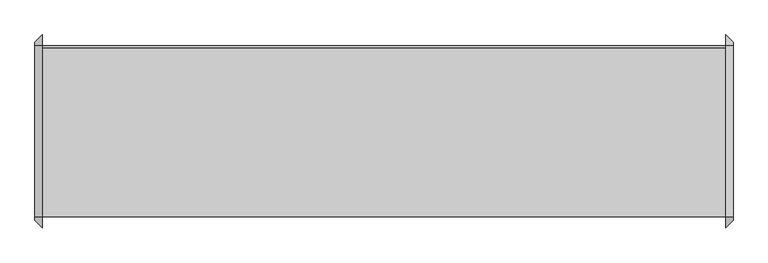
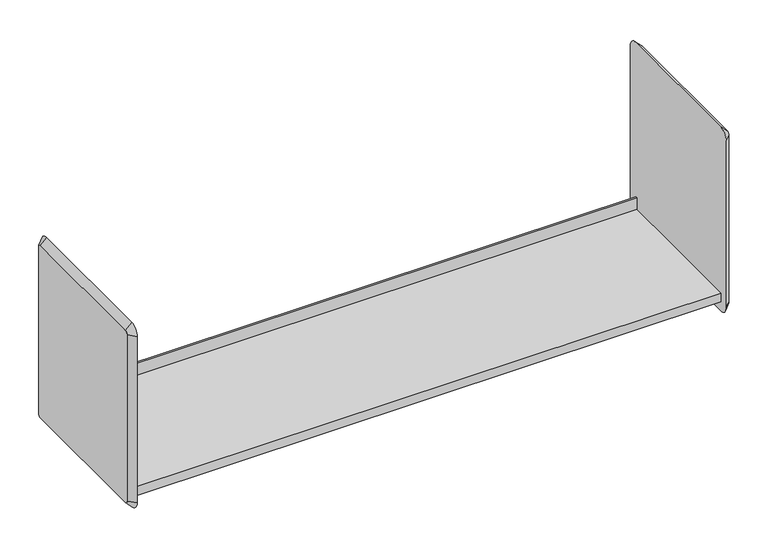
"""IFC4 building model written with IfcOpenShell, lengths in millimetres: furniture geometry, HermanMiller_CoStruc_B-StyleShelf : 15-1/2H x 13D x 48W."""

from ifc_helpers import new_model, si_unit, frame, origin, place, context, project, spatial, polyline, circle_curve, outline, extrude, source, transform, mapped, element, save
from ifc_brep_helpers import plane_surface, revolved_surface, advanced_brep


def furniture_8d228605(model_context):
    return source(origin(), model_context, "Body", "SolidModel", [
        extrude(outline(polyline([(-136.525, 1219.2), (158.75, 1219.2), (158.75, 1244.6), (161.925, 1244.6), (161.925, 1200.1152313), (-136.525, 1200.1152313), (-136.525, 1219.2)])), frame((-720.8420045, 0.0, 0.0), z_axis=(1.0, 0.0, 0.0), x_axis=(0.0, 1.0, 0.0)), (0.0, 0.0, 1.0), 1193.8),
        advanced_brep(
        [(472.9579955, -155.575, 1555.75), (472.9579955, -155.575, 1200.15), (485.6579955, -142.875, 1200.15), (485.6579955, -142.875, 1555.75), (485.6579955, 161.925, 1562.1), (485.6579955, -136.525, 1562.1), (485.6579955, -136.525, 1193.8), (485.6579955, 161.925, 1193.8), (485.6579955, 168.275, 1200.15), (485.6579955, 168.275, 1555.75), (472.9579955, -136.525, 1181.1), (472.9579955, 161.925, 1181.1), (472.9579955, 180.975, 1200.15), (472.9579955, 180.975, 1555.75), (472.9579955, 161.925, 1574.8), (472.9579955, -136.525, 1574.8)],
        [
            (0, 1),
            (1, 2),
            (2, 3),
            (3, 0),
            (4, 5),
            (5, 3, circle_curve(frame((485.6579955, -136.525, 1555.75), z_axis=(1.0, 0.0, 0.0), x_axis=(0.0, 0.0, 1.0)), 6.35)),
            (2, 6, circle_curve(frame((485.6579955, -136.525, 1200.15), z_axis=(1.0, 0.0, 0.0), x_axis=(0.0, -1.0, 0.0)), 6.35)),
            (6, 7),
            (7, 8, circle_curve(frame((485.6579955, 161.925, 1200.15), z_axis=(1.0, 0.0, 0.0), x_axis=(0.0, 0.0, -1.0)), 6.35)),
            (8, 9),
            (9, 4, circle_curve(frame((485.6579955, 161.925, 1555.75), z_axis=(1.0, 0.0, 0.0), x_axis=(0.0, 1.0, 0.0)), 6.35)),
            (1, 10, circle_curve(frame((472.9579955, -136.525, 1200.15), z_axis=(1.0, 0.0, 0.0), x_axis=(0.0, -1.0, 0.0)), 19.05)),
            (10, 6),
            (10, 11),
            (11, 7),
            (11, 12, circle_curve(frame((472.9579955, 161.925, 1200.15), z_axis=(1.0, 0.0, 0.0), x_axis=(0.0, 0.0, -1.0)), 19.05)),
            (12, 8),
            (12, 13),
            (13, 9),
            (14, 13, circle_curve(frame((472.9579955, 161.925, 1555.75), z_axis=(-1.0, 0.0, 0.0), x_axis=(0.0, 1.0, 0.0)), 19.05)),
            (0, 15, circle_curve(frame((472.9579955, -136.525, 1555.75), z_axis=(-1.0, 0.0, 0.0), x_axis=(0.0, 0.0, 1.0)), 19.05)),
            (15, 14),
            (15, 5),
            (4, 14),
        ],
        [
            plane_surface(frame((472.9579955, -155.575, 1377.95), z_axis=(0.7071067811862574, -0.7071067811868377, 0.0), x_axis=(0.0, 0.0, -1.0))),
            plane_surface(frame((485.6579955, 12.7, 1377.95), z_axis=(1.0, 0.0, 0.0), x_axis=(0.0, -1.0, 0.0))),
            revolved_surface(polyline([(485.6579955, -142.87499999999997, 1200.15), (472.9579955, -155.575, 1200.15)]), (492.0079955, -136.525, 1200.15), (-1.0, 0.0, 0.0)),
            plane_surface(frame((472.9579955, 12.7, 1181.1), z_axis=(0.7071067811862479, 0.0, -0.7071067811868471), x_axis=(0.0, 1.0, 0.0))),
            revolved_surface(polyline([(485.6579955, 161.925, 1193.8000000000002), (472.9579955, 161.925, 1181.1)]), (492.0079955, 161.925, 1200.15), (-1.0, 0.0, 0.0)),
            plane_surface(frame((472.9579955, 180.975, 1377.95), z_axis=(0.7071067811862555, 0.7071067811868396, 0.0), x_axis=(0.0, 0.0, 1.0))),
            plane_surface(frame((472.9579955, 12.7, 1377.95), z_axis=(-1.0, 0.0, 0.0), x_axis=(0.0, -1.0, 0.0))),
            plane_surface(frame((472.9579955, 12.7, 1574.8), z_axis=(0.7071067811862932, 0.0, 0.7071067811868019), x_axis=(0.0, -1.0, 0.0))),
            revolved_surface(polyline([(485.6579955, -136.525, 1562.1), (472.9579955, -136.525, 1574.8)]), (492.0079955, -136.525, 1555.75), (-1.0, 0.0, 0.0)),
            revolved_surface(polyline([(485.6579955, 168.27499999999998, 1555.75), (472.9579955, 180.975, 1555.75)]), (492.0079955, 161.925, 1555.75), (-1.0, 0.0, 0.0)),
        ],
        [
            (0, [[1, 2, 3, 4]]),
            (1, [[5, 6, -3, 7, 8, 9, 10, 11]]),
            (2, [[12, 13, -7, -2]]),
            (3, [[14, 15, -8, -13]]),
            (4, [[16, 17, -9, -15]]),
            (5, [[18, 19, -10, -17]]),
            (6, [[20, -18, -16, -14, -12, -1, 21, 22]]),
            (7, [[-22, 23, -5, 24]]),
            (8, [[-21, -4, -6, -23]]),
            (9, [[-20, -24, -11, -19]]),
        ],
    ),
        advanced_brep(
        [(-720.8420045, 180.975, 1555.75), (-720.8420045, 180.975, 1200.15), (-733.5420045, 168.275, 1200.15), (-733.5420045, 168.275, 1555.75), (-733.5420045, -136.525, 1562.1), (-733.5420045, 161.925, 1562.1), (-733.5420045, 161.925, 1193.8), (-733.5420045, -136.525, 1193.8), (-733.5420045, -142.875, 1200.15), (-733.5420045, -142.875, 1555.75), (-720.8420045, 161.925, 1181.1), (-720.8420045, -136.525, 1181.1), (-720.8420045, -155.575, 1200.15), (-720.8420045, -155.575, 1555.75), (-720.8420045, -136.525, 1574.8), (-720.8420045, 161.925, 1574.8)],
        [
            (0, 1),
            (1, 2),
            (2, 3),
            (3, 0),
            (4, 5),
            (5, 3, circle_curve(frame((-733.5420045, 161.925, 1555.75), z_axis=(-1.0, 4.822808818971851e-12, 2.32347474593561e-12), x_axis=(2.323422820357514e-12, 0.0, 1.0)), 6.35)),
            (2, 6, circle_curve(frame((-733.5420045, 161.925, 1200.15), z_axis=(-1.0, 1.0604850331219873e-12, 7.204903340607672e-12), x_axis=(1.060440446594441e-12, 1.0, 0.0)), 6.35)),
            (6, 7),
            (7, 8, circle_curve(frame((-733.5420045, -136.525, 1200.15), z_axis=(-1.0, 1.4002132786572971e-12, 0.0), x_axis=(0.0, 0.0, -1.0)), 6.35)),
            (8, 9),
            (9, 4, circle_curve(frame((-733.5420045, -136.525, 1555.75), z_axis=(-1.0, 0.0, 3.048228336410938e-12), x_axis=(0.0, -1.0, 0.0)), 6.35)),
            (1, 10, circle_curve(frame((-720.8420045, 161.925, 1200.15), z_axis=(-1.0, 1.0604850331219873e-12, 7.204903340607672e-12), x_axis=(1.060440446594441e-12, 1.0, 0.0)), 19.05)),
            (10, 6),
            (10, 11),
            (11, 7),
            (11, 12, circle_curve(frame((-720.8420045, -136.525, 1200.15), z_axis=(-1.0, 1.4002132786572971e-12, 0.0), x_axis=(0.0, 0.0, -1.0)), 19.05)),
            (12, 8),
            (12, 13),
            (13, 9),
            (14, 13, circle_curve(frame((-720.8420045, -136.525, 1555.75), z_axis=(1.0, 0.0, -3.048228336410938e-12), x_axis=(0.0, -1.0, 0.0)), 19.05)),
            (0, 15, circle_curve(frame((-720.8420045, 161.925, 1555.75), z_axis=(1.0, -4.822808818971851e-12, -2.32347474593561e-12), x_axis=(2.323422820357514e-12, 0.0, 1.0)), 19.05)),
            (15, 14),
            (15, 5),
            (4, 14),
        ],
        [
            plane_surface(frame((-720.8420045, 180.975, 1377.95), z_axis=(-0.7071067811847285, 0.7071067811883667, 0.0), x_axis=(0.0, 0.0, -1.0))),
            plane_surface(frame((-733.5420045, 12.7, 1377.95), z_axis=(-1.0, 0.0, 0.0), x_axis=(0.0, -1.0, 0.0))),
            revolved_surface(polyline([(-733.5420045, 168.27500000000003, 1200.15), (-720.8420044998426, 180.97500000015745, 1200.15)]), (-739.8920045, 161.925, 1200.15), (1.0, -1.0604850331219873e-12, -7.204903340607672e-12)),
            plane_surface(frame((-720.8420045, 12.7, 1181.1), z_axis=(-0.7071067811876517, 0.0, -0.7071067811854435), x_axis=(0.0, -1.0, 0.0))),
            revolved_surface(polyline([(-733.5420045, -136.525, 1193.8), (-720.8420044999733, -136.525, 1181.0999999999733)]), (-739.8920045, -136.525, 1200.15), (1.0, -1.4002132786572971e-12, 0.0)),
            plane_surface(frame((-720.8420045, -155.575, 1377.95), z_axis=(-0.7071067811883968, -0.7071067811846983, 0.0), x_axis=(0.0, 0.0, 1.0))),
            plane_surface(frame((-720.8420045, 12.7, 1377.95), z_axis=(1.0, 0.0, 0.0), x_axis=(0.0, -1.0, 0.0))),
            plane_surface(frame((-720.8420045, 12.7, 1574.8), z_axis=(-0.7071067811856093, 0.0, 0.7071067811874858), x_axis=(0.0, 1.0, 0.0))),
            revolved_surface(polyline([(-733.5420045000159, 161.925, 1562.0999999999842), (-720.8420044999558, 161.925, 1574.8000000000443)]), (-739.8920045, 161.925, 1555.75), (1.0, -4.822808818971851e-12, -2.32347474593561e-12)),
            revolved_surface(polyline([(-733.5420045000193, -142.87499999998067, 1555.75), (-720.8420045, -155.575, 1555.75)]), (-739.8920045, -136.525, 1555.75), (1.0, 0.0, -3.048228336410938e-12)),
        ],
        [
            (0, [[1, 2, 3, 4]]),
            (1, [[5, 6, -3, 7, 8, 9, 10, 11]]),
            (2, [[12, 13, -7, -2]]),
            (3, [[14, 15, -8, -13]]),
            (4, [[16, 17, -9, -15]]),
            (5, [[18, 19, -10, -17]]),
            (6, [[20, -18, -16, -14, -12, -1, 21, 22]]),
            (7, [[-22, 23, -5, 24]]),
            (8, [[-21, -4, -6, -23]]),
            (9, [[-20, -24, -11, -19]]),
        ],
    ),
    ])


if __name__ == "__main__":
    model = new_model("IFC4")
    model_context = context("Model", 3, world=origin())
    ifc_project = project(units=[si_unit("LENGTHUNIT", "METRE", prefix="MILLI")], contexts=[model_context])
    site = spatial("IfcSite", under=ifc_project)
    building = spatial("IfcBuilding", under=site)
    placement = place(None, origin())
    furniture_shape = furniture_8d228605(model_context)
    element("IfcFurniture", 1, ObjectType="HermanMiller_CoStruc_B-StyleShelf : 15-1/2H x 13D x 48W", at=placement, inside=building, context=model_context, shape_type="MappedRepresentation", body=[
        mapped(furniture_shape, transform((0.0, 0.0, 0.0), x_axis=(1.0, 0.0, 0.0), y_axis=(0.0, 1.0, 0.0), z_axis=(0.0, 0.0, 1.0))),
    ])
    save(model, "model.ifc")
